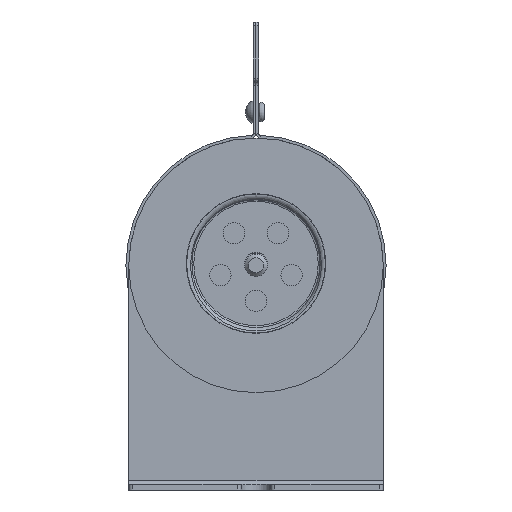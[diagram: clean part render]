
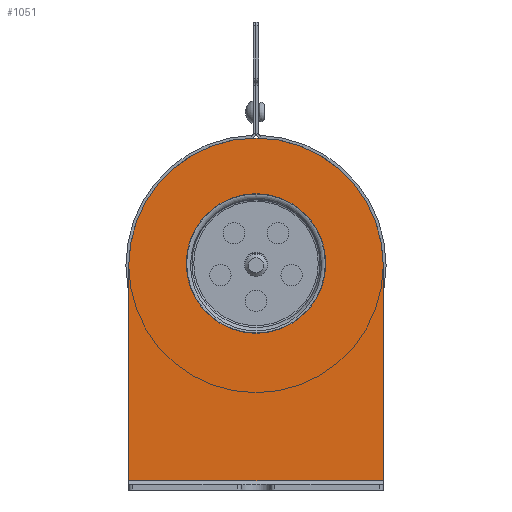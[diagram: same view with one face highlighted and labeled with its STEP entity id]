
A CAD part, left-side view. The second image highlights one B-rep face of the part: STEP entity #1051.
In plain terms, the highlighted planar face has unit normal (-1, 0, 0) as drawn and (1, 0, 0) by its records, which use the part's own axes.
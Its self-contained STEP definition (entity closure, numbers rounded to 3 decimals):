
#1051=ADVANCED_FACE('',(#1904,#1906),#1908,.T.);
#1904=FACE_BOUND('',#1905,.T.);
#1905=EDGE_LOOP('',(#3084,#3085,#3086,#3087));
#1906=FACE_BOUND('',#1907,.T.);
#1907=EDGE_LOOP('',(#3088));
#1908=PLANE('',#1909);
#1909=AXIS2_PLACEMENT_3D('',#1910,#1911,#1912);
#1910=CARTESIAN_POINT('',(1.5,0.,0.));
#1911=DIRECTION('',(1.,0.,0.));
#1912=DIRECTION('',(0.,1.,0.));
#3084=ORIENTED_EDGE('',*,*,#3724,.T.);
#3085=ORIENTED_EDGE('',*,*,#3725,.T.);
#3086=ORIENTED_EDGE('',*,*,#3726,.T.);
#3087=ORIENTED_EDGE('',*,*,#3727,.T.);
#3088=ORIENTED_EDGE('',*,*,#3722,.F.);
#3722=EDGE_CURVE('',#4081,#4081,#4082,.T.);
#3724=EDGE_CURVE('',#4085,#4086,#4087,.T.);
#3725=EDGE_CURVE('',#4086,#4088,#4089,.T.);
#3726=EDGE_CURVE('',#4088,#4090,#4091,.T.);
#3727=EDGE_CURVE('',#4090,#4085,#4092,.T.);
#4081=VERTEX_POINT('',#4717);
#4082=CIRCLE('',#4718,18.64);
#4085=VERTEX_POINT('',#4727);
#4086=VERTEX_POINT('',#4728);
#4087=LINE('',#4729,#4730);
#4088=VERTEX_POINT('',#4732);
#4089=LINE('',#4733,#4734);
#4090=VERTEX_POINT('',#4736);
#4091=CIRCLE('',#4737,34.);
#4092=LINE('',#4741,#4742);
#4717=CARTESIAN_POINT('',(1.5,18.64,15.));
#4718=AXIS2_PLACEMENT_3D('',#4719,#4720,#4721);
#4719=CARTESIAN_POINT('',(1.5,0.,15.));
#4720=DIRECTION('',(1.,0.,0.));
#4721=DIRECTION('',(0.,1.,0.));
#4727=CARTESIAN_POINT('',(1.5,-34.,-43.));
#4728=CARTESIAN_POINT('',(1.5,34.,-43.));
#4729=CARTESIAN_POINT('',(1.5,-34.,-43.));
#4730=VECTOR('',#4731,1.);
#4731=DIRECTION('',(0.,1.,0.));
#4732=CARTESIAN_POINT('',(1.5,34.,14.5));
#4733=CARTESIAN_POINT('',(1.5,34.,-43.));
#4734=VECTOR('',#4735,1.);
#4735=DIRECTION('',(0.,0.,1.));
#4736=CARTESIAN_POINT('',(1.5,-34.,14.5));
#4737=AXIS2_PLACEMENT_3D('',#4738,#4739,#4740);
#4738=CARTESIAN_POINT('',(1.5,0.,14.5));
#4739=DIRECTION('',(1.,0.,0.));
#4740=DIRECTION('',(0.,1.,0.));
#4741=CARTESIAN_POINT('',(1.5,-34.,14.5));
#4742=VECTOR('',#4743,1.);
#4743=DIRECTION('',(0.,0.,-1.));
